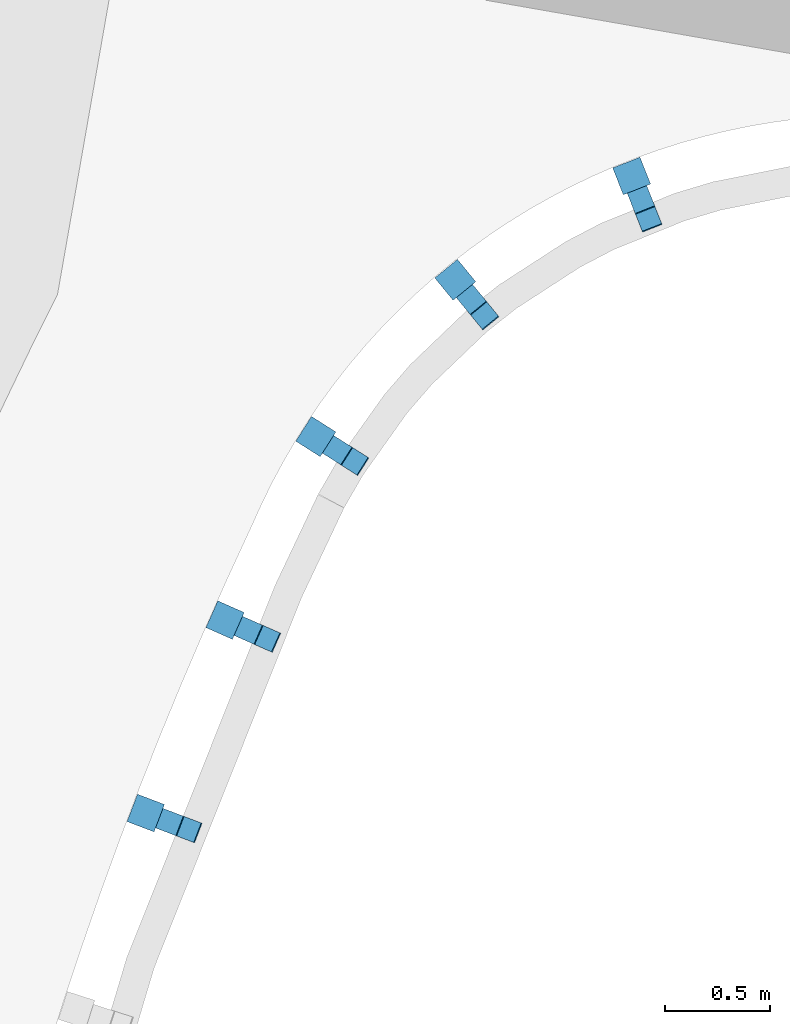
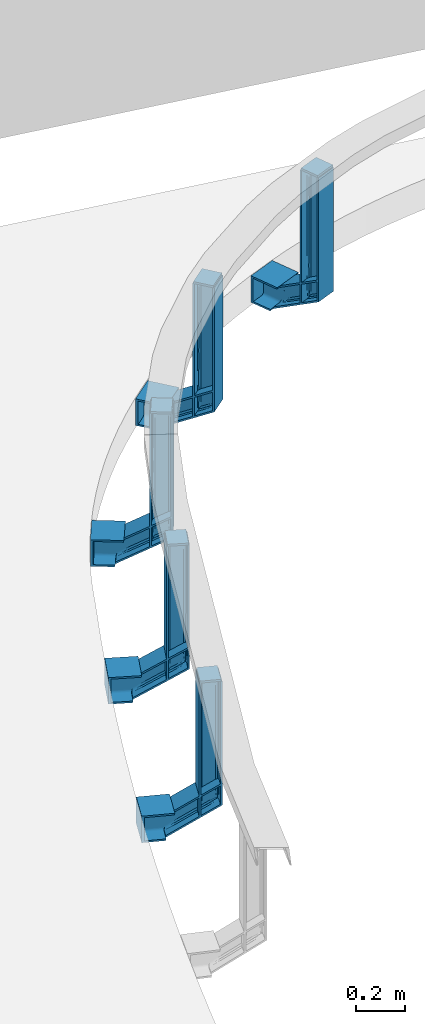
# One storey, part 45 of 68: 5 beams.
"""IFC2X3 building model written with IfcOpenShell, lengths in millimetres."""

from ifc_helpers import new_model, entity, si_unit, converted_unit, derived_unit, direction, frame, origin, place, context, subcontext, project, spatial, faceted_brep, source, transform, mapped, material, type_object, type_shapes, element, save


model = new_model("IFC2X3")

# Units and contexts
model_context = context("Model", 3, precision=0.01, world=origin(), true_north=direction((6.12303176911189e-17, 1.0)))
body_context = subcontext(model_context, "Body", "Model", "MODEL_VIEW")
ifc_project = project(units=[si_unit("LENGTHUNIT", "METRE", prefix="MILLI"), si_unit("AREAUNIT", "SQUARE_METRE", prefix="MILLI"), si_unit("VOLUMEUNIT", "CUBIC_METRE"), converted_unit("PLANEANGLEUNIT", "DEGREE", entity("IfcRatioMeasure", 0.0174532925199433), si_unit("PLANEANGLEUNIT", "RADIAN"), dimensions=[0, 0, 0, 0, 0, 0, 0]), si_unit("MASSUNIT", "GRAM", prefix="KILO"), derived_unit("MASSDENSITYUNIT", [(si_unit("MASSUNIT", "GRAM", prefix="KILO"), 1), (si_unit("LENGTHUNIT", "METRE"), -3)]), derived_unit("MOMENTOFINERTIAUNIT", [(si_unit("LENGTHUNIT", "METRE"), 4)]), si_unit("TIMEUNIT", "SECOND"), si_unit("FREQUENCYUNIT", "HERTZ"), si_unit("THERMODYNAMICTEMPERATUREUNIT", "DEGREE_CELSIUS"), derived_unit("THERMALTRANSMITTANCEUNIT", [(si_unit("MASSUNIT", "GRAM", prefix="KILO"), 1), (si_unit("THERMODYNAMICTEMPERATUREUNIT", "KELVIN"), -1), (si_unit("TIMEUNIT", "SECOND"), -3)]), derived_unit("VOLUMETRICFLOWRATEUNIT", [(si_unit("LENGTHUNIT", "METRE"), 3), (si_unit("TIMEUNIT", "SECOND"), -1)]), si_unit("ELECTRICCURRENTUNIT", "AMPERE"), si_unit("ELECTRICVOLTAGEUNIT", "VOLT"), si_unit("POWERUNIT", "WATT"), si_unit("FORCEUNIT", "NEWTON", prefix="KILO"), si_unit("ILLUMINANCEUNIT", "LUX"), si_unit("LUMINOUSFLUXUNIT", "LUMEN"), si_unit("LUMINOUSINTENSITYUNIT", "CANDELA"), derived_unit("USERDEFINED", [(si_unit("MASSUNIT", "GRAM", prefix="KILO"), -1), (si_unit("LENGTHUNIT", "METRE"), -2), (si_unit("TIMEUNIT", "SECOND"), 3), (si_unit("LUMINOUSFLUXUNIT", "LUMEN"), 1)]), derived_unit("LINEARVELOCITYUNIT", [(si_unit("LENGTHUNIT", "METRE"), 1), (si_unit("TIMEUNIT", "SECOND"), -1)]), si_unit("PRESSUREUNIT", "PASCAL"), derived_unit("USERDEFINED", [(si_unit("LENGTHUNIT", "METRE"), -2), (si_unit("MASSUNIT", "GRAM", prefix="KILO"), 1), (si_unit("TIMEUNIT", "SECOND"), -2)]), derived_unit("LINEARFORCEUNIT", [(si_unit("MASSUNIT", "GRAM", prefix="KILO"), 1), (si_unit("LENGTHUNIT", "METRE"), 1), (si_unit("TIMEUNIT", "SECOND"), -2), (si_unit("LENGTHUNIT", "METRE"), -1)]), derived_unit("PLANARFORCEUNIT", [(si_unit("MASSUNIT", "GRAM", prefix="KILO"), 1), (si_unit("LENGTHUNIT", "METRE"), 1), (si_unit("TIMEUNIT", "SECOND"), -2), (si_unit("LENGTHUNIT", "METRE"), -2)])], contexts=[model_context])

# Site, building, storey
site_placement = place(None, origin())
site = spatial("IfcSite", under=ifc_project, at=site_placement, Name="Theater aan de Parade", CompositionType="ELEMENT")
building_placement = place(site_placement, origin())
building = spatial("IfcBuilding", under=site, at=building_placement, Name="Theater aan de Parade", CompositionType="ELEMENT")
storey_placement = place(building_placement, frame((0.0, 0.0, 8750.0)))
storey = spatial("IfcBuildingStorey", under=building, at=storey_placement, Name="02 tweede verdieping", CompositionType="ELEMENT", Elevation=8750.0)

# Beams
ifc_material = material(Name="00_PBT_MAT_staal_S355")
beam_type = type_object("IfcBeamType", Name="28_PBT_SF_staal_baluster balkon:baluster HEA100", PredefinedType="BEAM", material=ifc_material)
shared_shape = source(origin(), body_context, "Body", "Brep", [
    faceted_brep([(50.0, 43.537813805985, 625.0), (50.0, 43.537813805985, 635.0), (50.0, -44.0, 635.0), (50.0, -44.0, 625.0), (-50.0, 43.537813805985, 625.0), (-50.0, -44.0, 625.0), (-50.0, -44.0, 635.0), (-50.0, 43.537813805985, 635.0)], [[[0, 1, 2, 3]], [[4, 5, 6, 7]], [[3, 5, 4, 0]], [[2, 6, 5, 3]], [[1, 7, 6, 2]], [[0, 4, 7, 1]]]),
    faceted_brep([(70.0, -278.0, -133.0), (70.0, -278.0, 0.0), (70.0, -290.0, 0.0), (70.0, -290.0, -133.0), (-70.0, -278.0, -133.0), (-70.0, -290.0, -133.0), (-70.0, -290.0, 0.0), (-70.0, -278.0, 0.0)], [[[0, 1, 2, 3]], [[4, 5, 6, 7]], [[3, 5, 4, 0]], [[2, 6, 5, 3]], [[1, 7, 6, 2]], [[0, 4, 7, 1]]]),
    faceted_brep([(70.0, -278.0, -133.0), (70.0, -278.0, -124.5), (14.7499999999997, -278.0, -124.5), (11.6441714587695, -278.0, -124.091109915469), (8.74999999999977, -278.0, -122.892304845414), (6.26471862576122, -278.0, -120.985281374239), (4.35769515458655, -278.0, -118.5), (3.15889008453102, -278.0, -115.60582854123), (2.74999999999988, -278.0, -112.5), (2.74999999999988, -278.0, -20.5000000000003), (3.15889008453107, -278.0, -17.39417145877), (4.35769515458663, -278.0, -14.5000000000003), (6.26471862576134, -278.0, -12.0147186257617), (8.74999999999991, -278.0, -10.107695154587), (11.6441714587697, -278.0, -8.90889008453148), (14.7499999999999, -278.0, -8.50000000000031), (70.0, -278.0, -8.50000000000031), (70.0, -278.0, 0.0), (-70.0, -278.0, 0.0), (-70.0, -278.0, -8.50000000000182), (-14.7499999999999, -278.0, -8.50000000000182), (-11.6441714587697, -278.0, -8.90889008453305), (-8.74999999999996, -278.0, -10.1076951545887), (-6.26471862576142, -278.0, -12.0147186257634), (-4.35769515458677, -278.0, -14.500000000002), (-3.15889008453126, -278.0, -17.3941714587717), (-2.75000000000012, -278.0, -20.5000000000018), (-2.75000000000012, -278.0, -112.500000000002), (-3.15889008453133, -278.0, -115.605828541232), (-4.3576951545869, -278.0, -118.500000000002), (-6.26471862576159, -278.0, -120.98528137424), (-8.75000000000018, -278.0, -122.892304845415), (-11.6441714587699, -278.0, -124.091109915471), (-14.7500000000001, -278.0, -124.500000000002), (-70.0, -278.0, -124.500000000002), (-70.0, -278.0, -133.0), (70.0, -154.37480362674, -8.50000000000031), (70.0, -151.923048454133, 0.0), (70.0, -190.285805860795, -133.0), (70.0, -187.834050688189, -124.5), (14.7499999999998, -214.852904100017, -8.50000000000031), (14.7499999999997, -154.37480362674, -8.50000000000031), (-70.0, -154.37480362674, -8.50000000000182), (-14.7500000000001, -154.37480362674, -8.50000000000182), (-14.7500000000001, -214.852905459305, -8.50000000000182), (6.43965673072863, -216.327371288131, -11.8433150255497), (2.74999999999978, -217.521904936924, -20.5000000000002), (12.079748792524, -154.461585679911, -8.8008650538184), (9.5433951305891, -154.717580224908, -9.68837358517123), (5.36802221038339, -155.678018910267, -13.0181223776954), (7.26812237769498, -155.129950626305, -11.1180222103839), (2.74999999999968, -157.83610504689, -20.5000000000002), (3.05086505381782, -157.065893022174, -17.8297487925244), (3.9383735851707, -156.334302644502, -15.2933951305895), (2.74999999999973, -184.372749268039, -112.5), (3.93837358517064, -185.874551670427, -117.706604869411), (3.05086505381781, -185.142961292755, -115.170251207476), (5.36802221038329, -186.530835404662, -119.981877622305), (7.26812237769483, -187.078903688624, -121.881977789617), (9.54339513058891, -187.491274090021, -123.311626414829), (12.0797487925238, -187.747268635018, -124.199134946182), (14.7499999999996, -187.834050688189, -124.5), (-14.7500000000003, -187.83405068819, -124.500000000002), (-70.0, -187.83405068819, -124.500000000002), (-70.0, -190.285805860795, -133.0), (-70.0, -151.923048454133, 0.0), (-9.54339513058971, -187.491274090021, -123.311626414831), (-12.0797487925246, -187.747268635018, -124.199134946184), (-7.2681223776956, -187.078903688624, -121.881977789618), (-5.36802221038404, -186.530835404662, -119.981877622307), (-3.93837358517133, -185.874551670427, -117.706604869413), (-3.05086505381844, -185.142961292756, -115.170251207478), (-2.75000000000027, -184.37274926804, -112.500000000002), (-2.75000000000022, -217.521899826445, -20.500000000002), (-2.75000000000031, -157.83610504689, -20.500000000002), (-6.43965718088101, -216.327373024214, -11.8433145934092), (-3.05086505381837, -157.065893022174, -17.8297487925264), (-3.93837358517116, -156.334302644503, -15.2933951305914), (-7.2681223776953, -155.129950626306, -11.1180222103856), (-5.36802221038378, -155.678018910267, -13.0181223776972), (-12.0797487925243, -154.461585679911, -8.80086505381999), (-9.54339513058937, -154.717580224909, -9.68837358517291)], [[[0, 1, 2, 3, 4, 5, 6, 7, 8, 9, 10, 11, 12, 13, 14, 15, 16, 17, 18, 19, 20, 21, 22, 23, 24, 25, 26, 27, 28, 29, 30, 31, 32, 33, 34, 35]], [[36, 37, 17, 16]], [[38, 39, 1, 0]], [[36, 16, 15, 40, 41]], [[19, 42, 43, 44, 20]], [[13, 45, 14]], [[12, 45, 13]], [[46, 45, 11]], [[47, 41, 40]], [[14, 40, 15]], [[45, 12, 11]], [[48, 47, 40]], [[49, 50, 45]], [[10, 9, 46]], [[40, 45, 48]], [[11, 10, 46]], [[46, 51, 52]], [[53, 46, 52]], [[46, 53, 45]], [[45, 53, 49]], [[45, 50, 48]], [[14, 45, 40]], [[54, 51, 46, 9, 8]], [[7, 6, 55]], [[8, 7, 56]], [[56, 54, 8]], [[57, 55, 6]], [[56, 7, 55]], [[6, 5, 57]], [[58, 5, 4]], [[59, 4, 3]], [[60, 3, 2]], [[59, 58, 4]], [[61, 60, 2]], [[59, 3, 60]], [[5, 58, 57]], [[39, 61, 2, 1]], [[62, 63, 34, 33]], [[38, 0, 35, 64]], [[64, 35, 34, 63]], [[42, 19, 18, 65]], [[32, 31, 66]], [[33, 32, 67]], [[67, 62, 33]], [[68, 66, 31]], [[67, 32, 66]], [[31, 30, 68]], [[69, 30, 29]], [[70, 29, 28]], [[71, 28, 27]], [[70, 69, 29]], [[72, 71, 27]], [[70, 28, 71]], [[30, 69, 68]], [[72, 27, 26, 73, 74]], [[25, 24, 73]], [[24, 23, 75]], [[75, 22, 21]], [[76, 74, 73]], [[75, 23, 22]], [[73, 77, 76]], [[78, 79, 75]], [[44, 80, 81]], [[73, 75, 77]], [[25, 73, 26]], [[21, 44, 75]], [[21, 20, 44]], [[43, 80, 44]], [[44, 81, 75]], [[78, 75, 81]], [[75, 79, 77]], [[73, 24, 75]], [[37, 65, 18, 17]], [[39, 38, 64, 63, 62, 67, 66, 68, 69, 70, 71, 72, 74, 76, 77, 79, 78, 81, 80, 43, 42, 65, 37, 36, 41, 47, 48, 50, 49, 53, 52, 51, 54, 56, 55, 57, 58, 59, 60, 61]]]),
    faceted_brep([(50.0, 48.0, 106.188021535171), (50.0, 48.0, 115.425625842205), (50.0, -151.923048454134, 0.0), (50.0, -155.119944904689, -11.0833333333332), (50.0, 48.0, 4.57437415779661), (50.0, 48.0, 13.8119784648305), (50.0, -187.08890941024, -121.916666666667), (50.0, -190.285805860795, -133.0), (14.4999999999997, -155.119944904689, -11.0833333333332), (14.4999999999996, -56.7511342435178, 45.7099259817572), (14.4999999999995, -4.37557443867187, 75.9489695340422), (14.4999999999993, 48.0, 106.188021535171), (-50.0, -155.119944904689, -11.0833333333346), (-50.0, 48.0, 106.188021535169), (-14.5000000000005, 48.0, 106.188021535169), (-14.5000000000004, -4.37556718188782, 75.9489737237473), (-14.5000000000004, -56.7511343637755, 45.7099259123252), (-14.5000000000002, -155.119944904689, -11.0833333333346), (9.9077988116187, -155.484968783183, -12.348836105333), (6.13940978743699, -85.6560198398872, 25.1051305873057), (12.1589161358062, -155.212086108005, -11.4027780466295), (2.49999999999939, -4.37556820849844, 62.0925666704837), (2.49999999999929, 48.0, 92.3316150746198), (2.80086505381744, 48.0, 95.4149555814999), (6.04197655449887, -10.2229142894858, 68.5459327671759), (2.49999999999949, -55.1641531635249, 32.769763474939), (2.73057663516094, -158.979764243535, -24.4649567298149), (2.49999999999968, -159.915289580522, -27.7083333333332), (2.49999999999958, -107.539721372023, 2.53071507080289), (7.83315720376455, -155.92810620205, -13.8851510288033), (11.8297487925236, 48.0, 105.840612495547), (4.52236465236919, -157.25113882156, -18.4719782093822), (3.41344560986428, -158.0801906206, -21.3462212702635), (5.11802221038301, 48.0, 100.970943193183), (7.01812237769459, 48.0, 103.164989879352), (3.68837358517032, 48.0, 98.3436845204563), (9.29339513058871, 48.0, 104.815805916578), (6.01471862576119, -156.524468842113, -15.9526830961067), (2.49999999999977, -182.293564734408, -105.291666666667), (2.49999999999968, -129.917998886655, -75.052619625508), (2.49999999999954, -56.7511354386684, -32.8097113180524), (2.49999999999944, -4.3755695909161, -2.57066427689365), (2.49999999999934, 48.0, 27.6683849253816), (6.01471862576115, -185.684385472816, -117.047316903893), (6.30956465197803, -103.743785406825, -70.0679088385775), (4.52236465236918, -184.957715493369, -114.528021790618), (7.83315720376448, -186.280748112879, -119.114848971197), (9.90779881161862, -186.723885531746, -120.651163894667), (14.4999999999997, -134.713341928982, -91.677618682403), (12.1589161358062, -186.996768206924, -121.597221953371), (14.4999999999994, -4.37556748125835, -16.4270695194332), (5.87838992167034, -26.389988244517, -24.9186641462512), (14.4999999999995, -69.5444547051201, -54.0523441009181), (5.11802221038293, 48.0, 19.0290568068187), (3.4134456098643, -184.128663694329, -111.653778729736), (2.80086505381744, 48.0, 24.5850444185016), (3.68837358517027, 48.0, 21.6563154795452), (14.4999999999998, -187.08890941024, -121.916666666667), (7.01812237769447, 48.0, 16.8350101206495), (9.29339513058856, 48.0, 15.1841940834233), (2.73057663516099, -183.229090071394, -108.535043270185), (11.8297487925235, 48.0, 14.1593875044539), (14.4999999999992, 48.0, 13.8119784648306), (-50.0, -187.088909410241, -121.916666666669), (-14.5000000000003, -187.088909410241, -121.916666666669), (-14.5000000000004, -134.713341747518, -91.6776185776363), (-14.5000000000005, -69.544456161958, -54.0523449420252), (-14.5000000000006, -4.37556766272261, -16.427069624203), (-14.5000000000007, 48.0, 13.8119784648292), (-50.0, 48.0, 13.8119784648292), (-50.0, -190.285805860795, -133.0), (-50.0, 48.0, 4.57437415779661), (-50.0, -151.923048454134, 0.0), (-50.0, 48.0, 115.425625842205), (-6.30956482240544, -103.743788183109, -70.0679106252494), (-4.52236465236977, -184.95771549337, -114.52802179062), (-3.41344560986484, -184.128663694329, -111.653778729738), (-2.50000000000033, -129.917995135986, -75.0526174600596), (-5.87838988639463, -26.3899865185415, -24.9186631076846), (-7.01812237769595, 48.0, 16.835010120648), (-9.29339513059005, 48.0, 15.1841940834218), (-6.01471862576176, -185.684385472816, -117.047316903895), (-7.8331572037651, -186.28074811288, -119.114848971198), (-11.829748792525, 48.0, 14.1593875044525), (-2.50000000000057, -4.37556959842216, -2.57066428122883), (-5.11802221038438, 48.0, 19.0290568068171), (-2.7305766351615, -183.229090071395, -108.535043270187), (-2.50000000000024, -182.293564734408, -105.291666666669), (-9.90779881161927, -186.723885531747, -120.651163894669), (-12.1589161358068, -186.996768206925, -121.597221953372), (-2.50000000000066, 48.0, 27.6683849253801), (-2.80086505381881, 48.0, 24.5850444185), (-2.50000000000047, -56.7511295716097, -32.809707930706), (-3.68837358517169, 48.0, 21.6563154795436), (-2.50000000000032, -159.915289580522, -27.708333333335), (-2.50000000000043, -107.539724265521, 2.53071340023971), (-2.50000000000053, -55.1641511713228, 32.7697646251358), (-2.50000000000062, -4.37556531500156, 62.0925683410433), (-2.50000000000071, 48.0, 92.3316150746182), (-2.73057663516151, -158.979764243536, -24.464956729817), (-11.8297487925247, 48.0, 105.840612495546), (-7.83315720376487, -155.92810620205, -13.885151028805), (-6.13940988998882, -85.6560228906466, 25.1051289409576), (-6.01471862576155, -156.524468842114, -15.9526830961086), (-6.04197656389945, -10.2229155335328, 68.5459320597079), (-7.0181223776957, 48.0, 103.16498987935), (-5.11802221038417, 48.0, 100.970943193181), (-9.90779881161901, -155.484968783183, -12.3488361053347), (-4.52236465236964, -157.25113882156, -18.4719782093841), (-3.68837358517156, 48.0, 98.3436845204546), (-2.80086505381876, 48.0, 95.4149555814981), (-12.1589161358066, -155.212086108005, -11.402778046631), (-3.41344560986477, -158.080190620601, -21.3462212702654), (-9.29339513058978, 48.0, 104.815805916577)], [[[0, 1, 2, 3]], [[4, 5, 6, 7]], [[0, 3, 8, 9, 10, 11]], [[12, 13, 14, 15, 16, 17]], [[18, 19, 20]], [[21, 22, 23]], [[24, 25, 21]], [[26, 27, 28]], [[19, 18, 29]], [[25, 19, 28]], [[9, 24, 10]], [[20, 9, 8]], [[19, 9, 20]], [[19, 24, 9]], [[25, 24, 19]], [[30, 11, 10]], [[28, 31, 32]], [[24, 33, 34]], [[33, 24, 35]], [[35, 24, 21]], [[36, 24, 34]], [[28, 32, 26]], [[31, 19, 37]], [[30, 10, 36]], [[31, 28, 19]], [[35, 21, 23]], [[36, 10, 24]], [[37, 19, 29]], [[27, 38, 39, 40, 41, 42, 22, 21, 25, 28]], [[43, 44, 45]], [[46, 47, 48]], [[48, 47, 49]], [[50, 51, 52]], [[53, 41, 51]], [[54, 45, 44]], [[55, 42, 41]], [[55, 41, 56]], [[49, 57, 48]], [[40, 39, 44]], [[58, 53, 51]], [[43, 46, 44]], [[51, 59, 58]], [[39, 54, 44]], [[54, 39, 60]], [[40, 44, 51]], [[61, 50, 62]], [[41, 40, 51]], [[44, 48, 52]], [[44, 46, 48]], [[56, 41, 53]], [[39, 38, 60]], [[59, 50, 61]], [[51, 44, 52]], [[51, 50, 59]], [[5, 62, 50, 52, 48, 57, 6]], [[63, 64, 65, 66, 67, 68, 69]], [[4, 7, 70, 71]], [[71, 70, 63, 69]], [[13, 12, 72, 73]], [[66, 65, 74]], [[75, 76, 74]], [[77, 74, 76]], [[78, 79, 80]], [[81, 74, 82]], [[83, 67, 80]], [[78, 84, 85]], [[86, 87, 77]], [[88, 82, 65]], [[88, 65, 89]], [[84, 90, 91]], [[66, 74, 78]], [[78, 80, 67]], [[92, 78, 74]], [[83, 68, 67]], [[84, 78, 92]], [[93, 84, 91]], [[93, 85, 84]], [[74, 65, 82]], [[78, 85, 79]], [[64, 89, 65]], [[74, 81, 75]], [[74, 77, 92]], [[86, 77, 76]], [[66, 78, 67]], [[94, 95, 96, 97, 98, 90, 84, 92, 77, 87]], [[94, 99, 95]], [[15, 14, 100]], [[101, 102, 103]], [[104, 105, 106]], [[107, 102, 101]], [[103, 102, 108]], [[16, 104, 102]], [[104, 96, 102]], [[102, 95, 108]], [[109, 110, 97]], [[107, 111, 102]], [[96, 104, 97]], [[109, 104, 106]], [[112, 95, 99]], [[16, 15, 104]], [[95, 112, 108]], [[113, 15, 100]], [[16, 102, 111]], [[97, 104, 109]], [[102, 96, 95]], [[113, 104, 15]], [[111, 17, 16]], [[105, 104, 113]], [[110, 98, 97]], [[1, 73, 72, 2]], [[5, 4, 71, 69, 68, 83, 80, 79, 85, 93, 91, 90, 98, 110, 109, 106, 105, 113, 100, 14, 13, 73, 1, 0, 11, 30, 36, 34, 33, 35, 23, 22, 42, 55, 56, 53, 58, 59, 61, 62]], [[3, 2, 72, 12, 17, 111, 107, 101, 103, 108, 112, 99, 94, 87, 86, 76, 75, 81, 82, 88, 89, 64, 63, 70, 7, 6, 57, 49, 47, 46, 43, 45, 54, 60, 38, 27, 26, 32, 31, 37, 29, 18, 20, 8]]]),
    faceted_brep([(50.0, -48.0, 625.0), (50.0, -40.0, 625.0), (14.4999999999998, -40.0, 625.0), (11.3941714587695, -39.5911099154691, 625.0), (8.4999999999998, -38.3923048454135, 625.0), (6.01471862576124, -36.4852813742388, 625.0), (4.10769515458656, -34.0, 625.0), (2.90889008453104, -31.1058285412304, 625.0), (2.49999999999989, -28.0, 625.0), (2.49999999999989, 28.0, 625.0), (2.90889008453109, 31.10582854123, 625.0), (4.10769515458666, 34.0, 625.0), (6.01471862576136, 36.4852813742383, 625.0), (8.49999999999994, 38.392304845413, 625.0), (11.3941714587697, 39.5911099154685, 625.0), (14.4999999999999, 40.0, 625.0), (50.0, 40.0, 625.0), (50.0, 48.0, 625.0), (-50.0, 48.0, 625.0), (-50.0, 40.0, 625.0), (-14.4999999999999, 40.0, 625.0), (-11.3941714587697, 39.5911099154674, 625.0), (-8.49999999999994, 38.3923048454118, 625.0), (-6.01471862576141, 36.4852813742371, 625.0), (-4.10769515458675, 34.0, 625.0), (-2.90889008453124, 31.1058285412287, 625.0), (-2.50000000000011, 28.0, 625.0), (-2.5000000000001, -28.0, 625.0), (-2.90889008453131, -31.1058285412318, 625.0), (-4.10769515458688, -34.0, 625.0), (-6.01471862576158, -36.4852813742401, 625.0), (-8.50000000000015, -38.3923048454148, 625.0), (-11.3941714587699, -39.5911099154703, 625.0), (-14.5000000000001, -40.0, 625.0), (-50.0, -40.0, 625.0), (-50.0, -48.0, 625.0), (50.0, 48.0, 165.0), (50.0, 40.0, -0.0444279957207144), (50.0, 48.0, 4.57437415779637), (50.0, -40.0, -46.2324495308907), (50.0, -48.0, -50.8512516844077), (14.4999999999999, 40.0, 564.521909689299), (14.4999999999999, 40.0, 468.738898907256), (14.4999999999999, 40.0, 390.608336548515), (14.4999999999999, 40.0, 312.477797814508), (14.4999999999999, 40.0, 234.347235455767), (14.4999999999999, 40.0, 156.216673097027), (14.4999999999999, 40.0, 60.4336623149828), (14.4999999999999, 40.0, -0.0444279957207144), (-50.0, 40.0, -0.0444279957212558), (-14.4999999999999, 40.0, -0.0444279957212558), (-14.4999999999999, 40.0, 60.4336769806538), (-14.4999999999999, 40.0, 156.21667900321), (-14.5, 40.0, 234.34724221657), (-14.5, 40.0, 312.477786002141), (-14.5, 40.0, 390.608329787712), (-14.5, 40.0, 468.738893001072), (-14.5, 40.0, 564.521895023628), (6.01471822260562, 36.4852809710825, 534.282851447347), (2.49999999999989, 28.0, 504.043808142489), (2.49999999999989, 28.0, 429.969876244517), (6.38111782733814, 36.8365011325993, 422.595542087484), (9.29339513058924, 38.8116264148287, -0.730535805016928), (5.87838991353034, 36.3467262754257, 83.7445110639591), (7.01812237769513, 37.3819777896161, -1.55594382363), (2.49999999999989, 28.0, 564.521899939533), (5.11802221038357, 35.4818776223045, -2.65296716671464), (11.8297487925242, 39.6991349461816, -0.21813251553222), (6.03175640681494, 36.5022850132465, 273.412504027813), (5.33717277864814, 35.7487158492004, 157.721305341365), (2.49999999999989, 28.0, 113.983560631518), (2.49999999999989, 28.0, 53.5054688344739), (2.49999999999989, 28.0, -6.97263122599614), (2.80086505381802, 30.6702512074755, -5.43096097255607), (6.45584074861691, 36.9045775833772, 351.543056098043), (3.68837358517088, 33.2066048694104, -3.96659650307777), (2.49999999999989, 28.0, 234.939752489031), (2.49999999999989, 28.0, 174.461652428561), (2.49999999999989, 28.0, 332.454810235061), (2.49999999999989, -28.0, 564.521918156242), (2.49999999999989, -28.0, 504.043820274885), (2.49999999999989, -28.0, 443.565722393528), (2.49999999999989, -28.0, 383.08762451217), (2.49999999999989, -28.0, 277.489656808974), (2.49999999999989, -28.0, 171.891689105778), (2.49999999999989, -28.0, 81.6519494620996), (2.49999999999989, -28.0, 21.1738515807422), (2.49999999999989, -28.0, -39.3042463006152), (14.4999999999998, -40.0, 564.521903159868), (14.4999999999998, -40.0, 457.191883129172), (6.01471890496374, -36.4852816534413, 534.282850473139), (14.4999999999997, -40.0, 14.24565628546), (5.87838987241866, -36.3467262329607, 51.4128968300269), (14.4999999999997, -40.0, 74.723753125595), (14.4999999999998, -40.0, 182.053764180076), (7.12980766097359, -37.469966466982, 128.3887480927), (14.4999999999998, -40.0, 373.287829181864), (14.4999999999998, -40.0, 289.383775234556), (5.68142979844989, -36.138354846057, 331.33579860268), (6.48410362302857, -36.9300282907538, 264.631830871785), (5.11802221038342, -35.481877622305, -43.6239103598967), (3.68837358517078, -33.2066048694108, -42.3102810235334), (14.4999999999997, -40.0, -46.2324495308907), (11.8297487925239, -39.6991349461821, -46.058745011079), (9.29339513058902, -38.8116264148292, -45.5463417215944), (7.01812237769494, -37.3819777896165, -44.7209337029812), (5.85986411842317, -36.3275477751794, 197.731198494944), (5.34384824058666, -35.7566026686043, 460.437179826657), (2.80086505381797, -30.6702512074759, -40.8459165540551), (6.59968170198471, -37.0324399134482, 396.193688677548), (-50.0, -40.0, -46.2324495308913), (-14.5000000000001, -40.0, 564.521911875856), (-14.5000000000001, -40.0, 457.191887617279), (-14.5000000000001, -40.0, 373.287826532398), (-14.5000000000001, -40.0, 289.383775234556), (-14.5000000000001, -40.0, 205.479723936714), (-14.5000000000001, -40.0, 121.575662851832), (-14.5000000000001, -40.0, 14.2456483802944), (-14.5000000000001, -40.0, -46.2324495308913), (-50.0, -48.0, -50.8512516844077), (-50.0, 48.0, 165.0), (-50.0, 48.0, 4.57437415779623), (-6.01471845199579, -36.4852812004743, 534.282853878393), (-2.5000000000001, -28.0, 504.043796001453), (-5.34384807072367, -35.7566024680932, 460.437182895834), (-2.5000000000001, -28.0, 564.521907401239), (-9.29339513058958, -38.8116264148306, -45.5463417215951), (-7.01812237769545, -37.3819777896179, -44.720933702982), (-6.37223200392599, -36.8283286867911, 262.824412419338), (-5.68142973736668, -36.1383547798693, 331.33579885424), (-6.59968165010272, -37.0324398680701, 396.193689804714), (-2.5000000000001, -28.0, 383.087610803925), (-11.8297487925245, -39.6991349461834, -46.0587450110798), (-5.11802221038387, -35.4818776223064, -43.6239103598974), (-6.18948395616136, -36.6565191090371, 51.4128959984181), (-3.68837358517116, -33.2066048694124, -42.3102810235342), (-2.5000000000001, -28.0, 21.1738462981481), (-2.80086505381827, -30.6702512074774, -40.8459165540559), (-5.35181665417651, -35.7659990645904, 125.002033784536), (-2.5000000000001, -28.0, 81.6519388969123), (-2.5000000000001, -28.0, -39.304246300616), (-2.5000000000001, -28.0, 277.489641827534), (-2.5000000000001, -28.0, 443.565703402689), (-2.5000000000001, -28.0, 171.891672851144), (-5.88018165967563, -36.3485766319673, 194.135386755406), (-2.50000000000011, 28.0, 564.521898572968), (-2.50000000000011, 28.0, 504.043797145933), (-2.50000000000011, 28.0, 429.969878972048), (-2.50000000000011, 28.0, 332.454826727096), (-2.50000000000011, 28.0, 234.939757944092), (-2.50000000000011, 28.0, 174.461656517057), (-2.50000000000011, 28.0, 113.983555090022), (-2.50000000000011, 28.0, 53.5054536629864), (-2.50000000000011, 28.0, -6.97263122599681), (-5.87838991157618, 36.3467262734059, 83.7445122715), (-9.29339513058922, 38.8116264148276, -0.730535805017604), (-5.33717271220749, 35.7487157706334, 157.721307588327), (-6.01471873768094, 36.4852814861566, 534.282853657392), (-6.38111797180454, 36.8365012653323, 422.595548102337), (-6.45584072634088, 36.9045775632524, 351.543059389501), (-3.688373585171, 33.2066048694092, -3.96659650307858), (-2.80086505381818, 30.6702512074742, -5.43096097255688), (-7.01812237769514, 37.3819777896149, -1.55594382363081), (-5.11802221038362, 35.4818776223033, -2.65296716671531), (-6.03175635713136, 36.5022849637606, 273.412506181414), (-11.8297487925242, 39.6991349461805, -0.218132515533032)], [[[0, 1, 2, 3, 4, 5, 6, 7, 8, 9, 10, 11, 12, 13, 14, 15, 16, 17, 18, 19, 20, 21, 22, 23, 24, 25, 26, 27, 28, 29, 30, 31, 32, 33, 34, 35]], [[36, 17, 16, 37, 38]], [[39, 1, 0, 40]], [[37, 16, 15, 41, 42, 43, 44, 45, 46, 47, 48]], [[19, 49, 50, 51, 52, 53, 54, 55, 56, 57, 20]], [[13, 12, 58]], [[11, 58, 12]], [[58, 42, 41]], [[59, 60, 61]], [[62, 63, 64]], [[65, 11, 10]], [[66, 64, 63]], [[67, 48, 47]], [[45, 68, 69]], [[69, 70, 63]], [[65, 59, 58]], [[46, 63, 47]], [[63, 46, 69]], [[67, 47, 62]], [[41, 15, 14]], [[71, 72, 73]], [[58, 41, 13]], [[44, 74, 68]], [[43, 74, 44]], [[58, 11, 65]], [[13, 41, 14]], [[75, 71, 73]], [[47, 63, 62]], [[71, 63, 70]], [[75, 66, 71]], [[59, 61, 58]], [[63, 71, 66]], [[10, 9, 65]], [[44, 68, 45]], [[69, 76, 77, 70]], [[69, 46, 45]], [[68, 78, 76]], [[74, 60, 78]], [[69, 68, 76]], [[74, 43, 61]], [[60, 74, 61]], [[68, 74, 78]], [[43, 42, 61]], [[58, 61, 42]], [[8, 79, 80, 81, 82, 83, 84, 85, 86, 87, 72, 71, 70, 77, 76, 78, 60, 59, 65, 9]], [[3, 88, 4]], [[88, 89, 90]], [[91, 92, 93]], [[4, 90, 5]], [[92, 86, 85]], [[94, 93, 95]], [[5, 90, 6]], [[96, 97, 98]], [[99, 98, 97]], [[92, 100, 101]], [[90, 80, 79]], [[6, 79, 7]], [[86, 92, 101]], [[91, 102, 103]], [[104, 91, 103]], [[90, 79, 6]], [[92, 105, 100]], [[104, 105, 91]], [[99, 94, 106]], [[90, 4, 88]], [[80, 90, 107]], [[3, 2, 88]], [[101, 108, 86]], [[108, 87, 86]], [[92, 91, 105]], [[79, 8, 7]], [[94, 95, 106]], [[85, 84, 95]], [[107, 90, 89]], [[85, 95, 92]], [[92, 95, 93]], [[106, 95, 84]], [[89, 96, 109]], [[109, 81, 107]], [[81, 109, 82]], [[96, 98, 109]], [[83, 82, 98]], [[84, 83, 106]], [[83, 98, 99]], [[94, 99, 97]], [[83, 99, 106]], [[82, 109, 98]], [[81, 80, 107]], [[89, 109, 107]], [[1, 39, 102, 91, 93, 94, 97, 96, 89, 88, 2]], [[110, 34, 33, 111, 112, 113, 114, 115, 116, 117, 118]], [[119, 40, 0, 35]], [[110, 119, 35, 34]], [[120, 121, 49, 19, 18]], [[122, 31, 30]], [[122, 111, 31]], [[122, 123, 124]], [[122, 125, 123]], [[126, 117, 127]], [[111, 33, 32]], [[31, 111, 32]], [[112, 122, 124]], [[128, 114, 129]], [[130, 131, 129]], [[132, 118, 117]], [[133, 127, 134]], [[29, 122, 30]], [[117, 116, 134]], [[135, 133, 134]], [[135, 136, 137]], [[122, 112, 111]], [[134, 136, 135]], [[134, 138, 139]], [[136, 134, 139]], [[29, 125, 122]], [[140, 137, 136]], [[132, 117, 126]], [[28, 27, 125]], [[134, 127, 117]], [[125, 29, 28]], [[138, 134, 116]], [[131, 141, 129]], [[124, 123, 142]], [[130, 112, 124]], [[113, 129, 114]], [[130, 129, 113]], [[143, 139, 138]], [[116, 115, 144]], [[144, 138, 116]], [[138, 144, 143]], [[128, 141, 144]], [[128, 115, 114]], [[141, 143, 144]], [[141, 128, 129]], [[115, 128, 144]], [[112, 130, 113]], [[130, 142, 131]], [[130, 124, 142]], [[27, 26, 145, 146, 147, 148, 149, 150, 151, 152, 153, 140, 136, 139, 143, 141, 131, 142, 123, 125]], [[22, 21, 57]], [[154, 51, 155]], [[154, 151, 156]], [[146, 145, 157]], [[23, 157, 24]], [[23, 22, 157]], [[158, 55, 159]], [[57, 56, 157]], [[152, 160, 161]], [[52, 154, 156]], [[21, 20, 57]], [[24, 145, 25]], [[25, 145, 26]], [[162, 163, 154]], [[158, 159, 147]], [[157, 145, 24]], [[161, 153, 152]], [[154, 155, 162]], [[152, 151, 154]], [[154, 163, 152]], [[148, 159, 164]], [[51, 50, 165]], [[51, 154, 52]], [[157, 22, 57]], [[152, 163, 160]], [[155, 51, 165]], [[157, 56, 158]], [[157, 158, 146]], [[156, 151, 150, 149]], [[164, 156, 149]], [[164, 54, 53]], [[53, 52, 156]], [[156, 164, 53]], [[54, 159, 55]], [[148, 164, 149]], [[164, 159, 54]], [[147, 159, 148]], [[158, 147, 146]], [[56, 55, 158]], [[120, 18, 17, 36, 38, 121]], [[39, 40, 119, 110, 118, 132, 126, 127, 133, 135, 137, 140, 153, 161, 160, 163, 162, 155, 165, 50, 49, 121, 38, 37, 48, 67, 62, 64, 66, 75, 73, 72, 87, 108, 101, 100, 105, 104, 103, 102]]]),
])
type_shapes(beam_type, [shared_shape])
for number, where, z_axis, x_axis, name in (
    (1, (54957.7092847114, 40101.526524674, -2040.0), (0.0, 0.0, 1.0), (-0.404263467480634, -0.914642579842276, 0.0), "28_PBT_SF_staal_baluster balkon:baluster HEA100"),
    (2, (54583.1204636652, 39190.2626849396, -2040.0), (0.0, 0.0, 1.0), (-0.356159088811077, -0.934425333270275, 0.0), "28_PBT_SF_staal_baluster balkon:baluster HEA100"),
    (3, (55375.5991548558, 40948.9226281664, -2040.0), (0.0, 0.0, 1.0), (-0.537030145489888, -0.843563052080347, 0.0), "28_PBT_SF_staal_baluster balkon:baluster HEA100"),
    (4, (55995.4158848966, 41645.2956539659, -2040.0), (0.0, 0.0, 1.0), (-0.773617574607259, -0.633652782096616, 0.0), "28_PBT_SF_staal_baluster balkon:baluster HEA100"),
    (5, (56779.1342634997, 42106.885964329, -2040.0), (0.0, 0.0, 1.0), (-0.929988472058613, -0.367588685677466, 0.0), "28_PBT_SF_staal_baluster balkon:baluster HEA100"),
):
    element("IfcBeam", number, at=place(storey_placement, frame(where, z_axis=z_axis, x_axis=x_axis)), inside=storey, type_object=beam_type, material=ifc_material, Name=name, ObjectType="28_PBT_SF_staal_baluster balkon:baluster HEA100", context=body_context, shape_type="MappedRepresentation", body=[
        mapped(shared_shape, transform((0.0, 0.0, 0.0), scale=1.0)),
    ])

save(model, "model.ifc")
